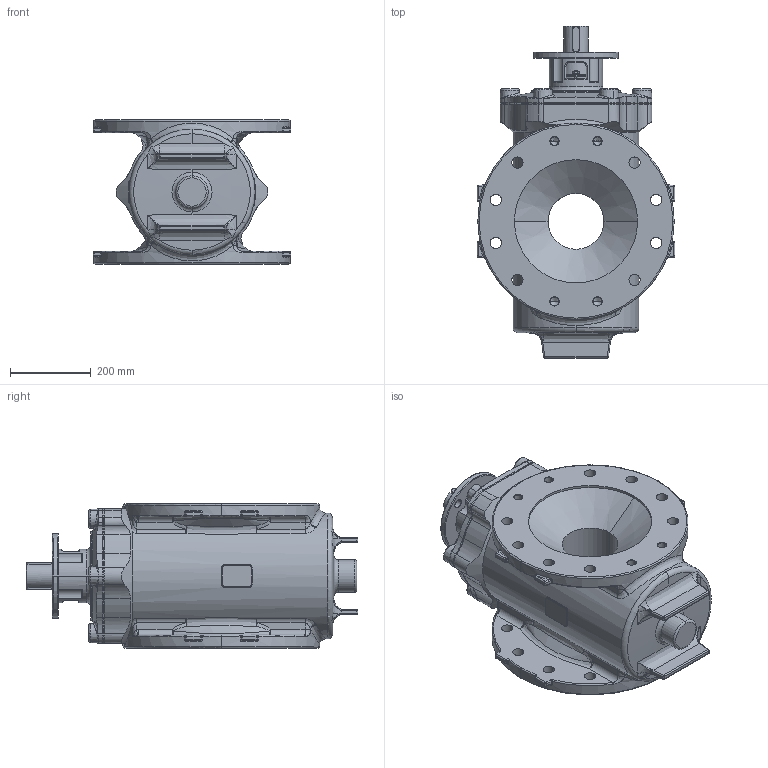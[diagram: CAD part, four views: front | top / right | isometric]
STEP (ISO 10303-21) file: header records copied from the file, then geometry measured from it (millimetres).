
FILE_DESCRIPTION (( 'STEP AP203' ), '1' );
FILE_NAME ('O_764_01_DN300_1XXXXXX000_REV02.step', '2021-02-03T09:02:11', ( '' ), ( '' ), 'SwSTEP 2.0', 'SolidWorks 2019', '' );
FILE_SCHEMA (( 'CONFIG_CONTROL_DESIGN' ));
Length unit declared in the file: millimetre
Products named in the file (1): O_764_01_DN300_1XXXXXX000_REV02
Bounding box: 489 x 820.5 x 356 mm (x, y, z)
Volume: 52319680.2 mm3; surface area: 1522545.2 mm2
Topology: 1 solids, 1 shells, 994 faces, 2337 edges, 1327 vertices
Faces by surface type: cylinder 327, torus 183, plane 175, bspline 152, cone 101, sphere 56
Entity records: 41372 total; most frequent: CARTESIAN_POINT 19588, DIRECTION 4621, ORIENTED_EDGE 4578, EDGE_CURVE 2289, AXIS2_PLACEMENT_3D 1982, VERTEX_POINT 1327, CIRCLE 1139, EDGE_LOOP 1074
